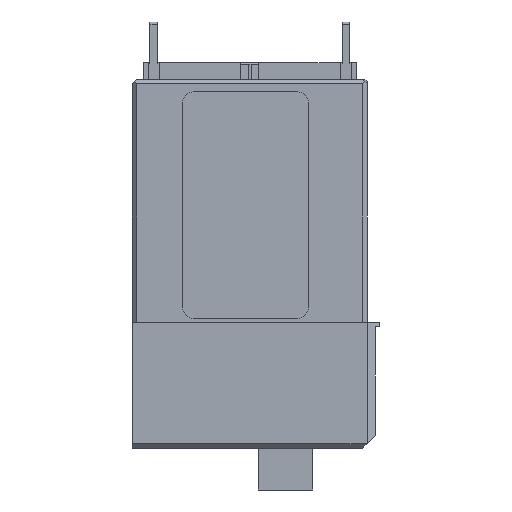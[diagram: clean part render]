
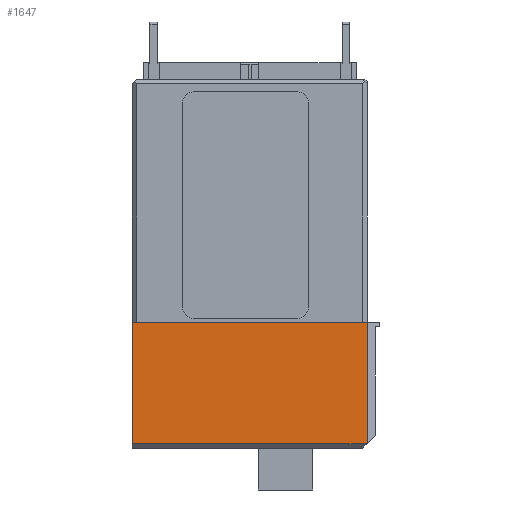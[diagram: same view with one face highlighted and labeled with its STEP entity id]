
A CAD part, left-side view. The second image highlights one B-rep face of the part: STEP entity #1647.
In plain terms, the highlighted planar face has unit normal (-1, 0, 0).
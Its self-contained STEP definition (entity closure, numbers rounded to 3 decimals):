
#22 = VERTEX_POINT('',#23);
#23 = CARTESIAN_POINT('',(-31.,0.,0.));
#44 = PLANE('',#45);
#45 = AXIS2_PLACEMENT_3D('',#46,#47,#48);
#46 = CARTESIAN_POINT('',(-16.,0.,14.252));
#47 = DIRECTION('',(0.,-1.,0.));
#48 = DIRECTION('',(0.,0.,-1.));
#72 = PLANE('',#73);
#73 = AXIS2_PLACEMENT_3D('',#74,#75,#76);
#74 = CARTESIAN_POINT('',(-32.,0.,0.));
#75 = DIRECTION('',(0.,0.,-1.));
#76 = DIRECTION('',(1.,0.,0.));
#277 = EDGE_CURVE('',#22,#278,#280,.T.);
#278 = VERTEX_POINT('',#279);
#279 = CARTESIAN_POINT('',(-31.,0.,-29.));
#280 = SURFACE_CURVE('',#281,(#285,#292),.PCURVE_S1.);
#281 = LINE('',#282,#283);
#282 = CARTESIAN_POINT('',(-31.,0.,0.));
#283 = VECTOR('',#284,1.);
#284 = DIRECTION('',(0.,0.,-1.));
#285 = PCURVE('',#44,#286);
#286 = DEFINITIONAL_REPRESENTATION('',(#287),#291);
#287 = LINE('',#288,#289);
#288 = CARTESIAN_POINT('',(14.252,-15.));
#289 = VECTOR('',#290,1.);
#290 = DIRECTION('',(1.,0.));
#291 = ( GEOMETRIC_REPRESENTATION_CONTEXT(2) 
PARAMETRIC_REPRESENTATION_CONTEXT() REPRESENTATION_CONTEXT('2D SPACE',''
  ) );
#292 = PCURVE('',#293,#298);
#293 = PLANE('',#294);
#294 = AXIS2_PLACEMENT_3D('',#295,#296,#297);
#295 = CARTESIAN_POINT('',(-31.,0.,0.));
#296 = DIRECTION('',(-1.,0.,0.));
#297 = DIRECTION('',(-0.,0.,-1.));
#298 = DEFINITIONAL_REPRESENTATION('',(#299),#303);
#299 = LINE('',#300,#301);
#300 = CARTESIAN_POINT('',(-0.,0.));
#301 = VECTOR('',#302,1.);
#302 = DIRECTION('',(1.,0.));
#303 = ( GEOMETRIC_REPRESENTATION_CONTEXT(2) 
PARAMETRIC_REPRESENTATION_CONTEXT() REPRESENTATION_CONTEXT('2D SPACE',''
  ) );
#551 = EDGE_CURVE('',#22,#552,#554,.T.);
#552 = VERTEX_POINT('',#553);
#553 = CARTESIAN_POINT('',(-31.,56.,0.));
#554 = SURFACE_CURVE('',#555,(#559,#566),.PCURVE_S1.);
#555 = LINE('',#556,#557);
#556 = CARTESIAN_POINT('',(-31.,0.,0.));
#557 = VECTOR('',#558,1.);
#558 = DIRECTION('',(0.,1.,0.));
#559 = PCURVE('',#72,#560);
#560 = DEFINITIONAL_REPRESENTATION('',(#561),#565);
#561 = LINE('',#562,#563);
#562 = CARTESIAN_POINT('',(1.,0.));
#563 = VECTOR('',#564,1.);
#564 = DIRECTION('',(0.,-1.));
#565 = ( GEOMETRIC_REPRESENTATION_CONTEXT(2) 
PARAMETRIC_REPRESENTATION_CONTEXT() REPRESENTATION_CONTEXT('2D SPACE',''
  ) );
#566 = PCURVE('',#293,#567);
#567 = DEFINITIONAL_REPRESENTATION('',(#568),#572);
#568 = LINE('',#569,#570);
#569 = CARTESIAN_POINT('',(-0.,0.));
#570 = VECTOR('',#571,1.);
#571 = DIRECTION('',(0.,-1.));
#572 = ( GEOMETRIC_REPRESENTATION_CONTEXT(2) 
PARAMETRIC_REPRESENTATION_CONTEXT() REPRESENTATION_CONTEXT('2D SPACE',''
  ) );
#1230 = PLANE('',#1231);
#1231 = AXIS2_PLACEMENT_3D('',#1232,#1233,#1234);
#1232 = CARTESIAN_POINT('',(-16.,56.,14.252));
#1233 = DIRECTION('',(0.,-1.,0.));
#1234 = DIRECTION('',(0.,0.,-1.));
#1482 = PLANE('',#1483);
#1483 = AXIS2_PLACEMENT_3D('',#1484,#1485,#1486);
#1484 = CARTESIAN_POINT('',(-31.,0.,-29.));
#1485 = DIRECTION('',(-0.707,0.,-0.707));
#1486 = DIRECTION('',(0.707,0.,-0.707));
#1647 = ADVANCED_FACE('',(#1648),#293,.T.);
#1648 = FACE_BOUND('',#1649,.T.);
#1649 = EDGE_LOOP('',(#1650,#1651,#1674,#1695));
#1650 = ORIENTED_EDGE('',*,*,#551,.T.);
#1651 = ORIENTED_EDGE('',*,*,#1652,.T.);
#1652 = EDGE_CURVE('',#552,#1653,#1655,.T.);
#1653 = VERTEX_POINT('',#1654);
#1654 = CARTESIAN_POINT('',(-31.,56.,-29.));
#1655 = SURFACE_CURVE('',#1656,(#1660,#1667),.PCURVE_S1.);
#1656 = LINE('',#1657,#1658);
#1657 = CARTESIAN_POINT('',(-31.,56.,0.));
#1658 = VECTOR('',#1659,1.);
#1659 = DIRECTION('',(0.,0.,-1.));
#1660 = PCURVE('',#293,#1661);
#1661 = DEFINITIONAL_REPRESENTATION('',(#1662),#1666);
#1662 = LINE('',#1663,#1664);
#1663 = CARTESIAN_POINT('',(0.,-56.));
#1664 = VECTOR('',#1665,1.);
#1665 = DIRECTION('',(1.,0.));
#1666 = ( GEOMETRIC_REPRESENTATION_CONTEXT(2) 
PARAMETRIC_REPRESENTATION_CONTEXT() REPRESENTATION_CONTEXT('2D SPACE',''
  ) );
#1667 = PCURVE('',#1230,#1668);
#1668 = DEFINITIONAL_REPRESENTATION('',(#1669),#1673);
#1669 = LINE('',#1670,#1671);
#1670 = CARTESIAN_POINT('',(14.252,-15.));
#1671 = VECTOR('',#1672,1.);
#1672 = DIRECTION('',(1.,0.));
#1673 = ( GEOMETRIC_REPRESENTATION_CONTEXT(2) 
PARAMETRIC_REPRESENTATION_CONTEXT() REPRESENTATION_CONTEXT('2D SPACE',''
  ) );
#1674 = ORIENTED_EDGE('',*,*,#1675,.F.);
#1675 = EDGE_CURVE('',#278,#1653,#1676,.T.);
#1676 = SURFACE_CURVE('',#1677,(#1681,#1688),.PCURVE_S1.);
#1677 = LINE('',#1678,#1679);
#1678 = CARTESIAN_POINT('',(-31.,0.,-29.));
#1679 = VECTOR('',#1680,1.);
#1680 = DIRECTION('',(0.,1.,0.));
#1681 = PCURVE('',#293,#1682);
#1682 = DEFINITIONAL_REPRESENTATION('',(#1683),#1687);
#1683 = LINE('',#1684,#1685);
#1684 = CARTESIAN_POINT('',(29.,0.));
#1685 = VECTOR('',#1686,1.);
#1686 = DIRECTION('',(0.,-1.));
#1687 = ( GEOMETRIC_REPRESENTATION_CONTEXT(2) 
PARAMETRIC_REPRESENTATION_CONTEXT() REPRESENTATION_CONTEXT('2D SPACE',''
  ) );
#1688 = PCURVE('',#1482,#1689);
#1689 = DEFINITIONAL_REPRESENTATION('',(#1690),#1694);
#1690 = LINE('',#1691,#1692);
#1691 = CARTESIAN_POINT('',(0.,0.));
#1692 = VECTOR('',#1693,1.);
#1693 = DIRECTION('',(0.,-1.));
#1694 = ( GEOMETRIC_REPRESENTATION_CONTEXT(2) 
PARAMETRIC_REPRESENTATION_CONTEXT() REPRESENTATION_CONTEXT('2D SPACE',''
  ) );
#1695 = ORIENTED_EDGE('',*,*,#277,.F.);
